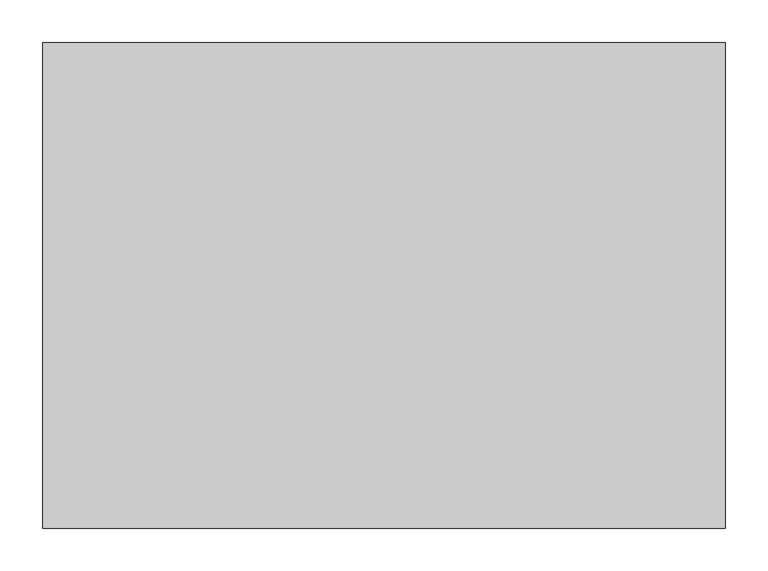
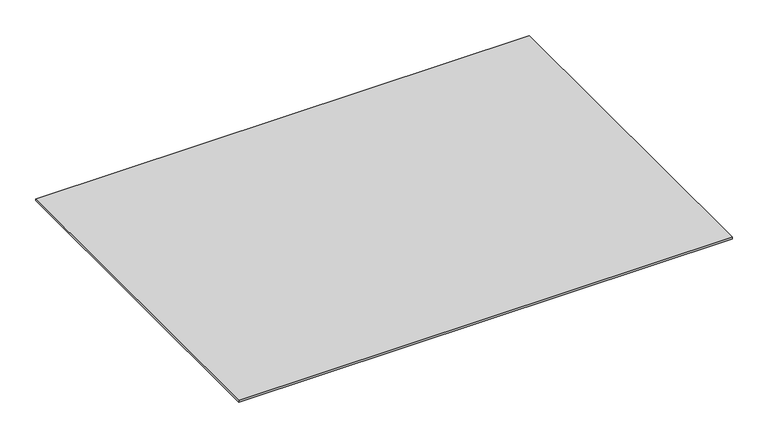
"""IFC4 building model written with IfcOpenShell, lengths in millimetres: proxy geometry, Electrical_Installation_Hager_Blank-Cover-BKA : Electrical_Installation_Hager_Blank-Cover-BKA."""

from ifc_helpers import new_model, si_unit, frame, origin, place, context, project, spatial, polyline, outline, extrude, source, transform, mapped, element, save


def electrical_fixtures_d483ce37(model_context):
    return source(origin(), model_context, "Body", "SweptSolid", [
        extrude(outline(polyline([(800.0, 284.75), (800.0, -284.75), (0.0, -284.75), (0.0, 284.75), (800.0, 284.75)])), frame((0.0, 0.0, 10.0), z_axis=(0.0, 0.0, 1.0), x_axis=(1.0, 0.0, 0.0)), (0.0, 0.0, 1.0), 3.0),
    ])


if __name__ == "__main__":
    model = new_model("IFC4")
    model_context = context("Model", 3, world=origin())
    ifc_project = project(units=[si_unit("LENGTHUNIT", "METRE", prefix="MILLI")], contexts=[model_context])
    site = spatial("IfcSite", under=ifc_project)
    building = spatial("IfcBuilding", under=site)
    placement = place(None, origin())
    electrical_fixtures_shape = electrical_fixtures_d483ce37(model_context)
    element("IfcBuildingElementProxy", 1, Name="Electrical_Installation_Hager_Blank-Cover-BKA : Electrical_Installation_Hager_Blank-Cover-BKA", ObjectType="Electrical_Installation_Hager_Blank-Cover-BKA : Electrical_Installation_Hager_Blank-Cover-BKA", at=placement, inside=building, context=model_context, shape_type="MappedRepresentation", body=[
        mapped(electrical_fixtures_shape, transform((0.0, 0.0, 0.0), x_axis=(1.0, 0.0, 0.0), y_axis=(0.0, 1.0, 0.0), z_axis=(0.0, 0.0, 1.0))),
    ])
    save(model, "model.ifc")
